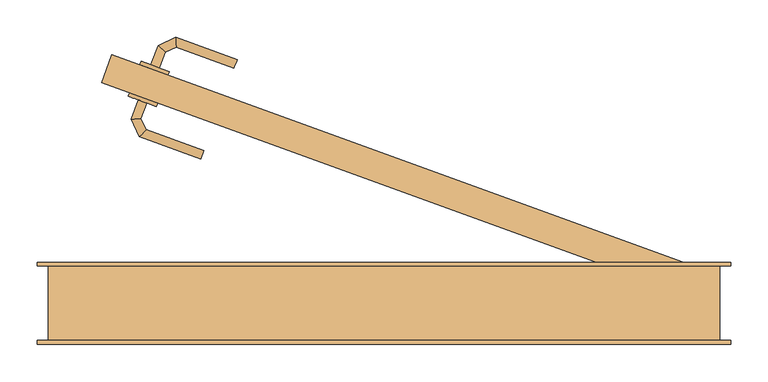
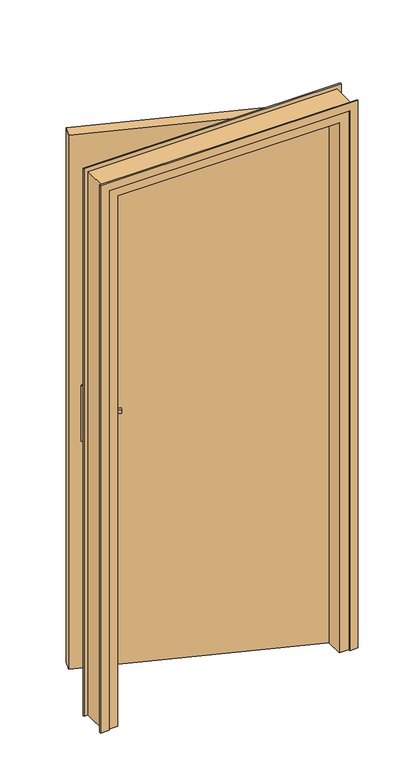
"""IFC4 building model written with IfcOpenShell, lengths in millimetres: door geometry, @_Int. Simple : @_PP (0.83m x 2.04m)."""

from ifc_helpers import new_model, si_unit, point, frame, frame_2d, origin, origin_with_axes, place, context, project, spatial, polyline, circle_curve, ellipse_curve, trimmed, segment, composite_curve, outline, extrude, faceted_brep, source, transform, mapped, element, save
from ifc_brep_helpers import plane_surface, cylinder_surface, advanced_brep


def door_510859a6(model_context):
    return source(origin(), model_context, "Body", "SolidModel", [
        extrude(outline(composite_curve([segment(trimmed(circle_curve(frame_2d((0.0, 40.0)), 40.0), [point((34.6410162, 60.0))], [point((34.6410162, 20.0))], False, "CARTESIAN"), True, "CONTINUOUS"), segment(polyline([(34.6410162, 20.0), (-175.3589838, 20.0)]), True, "CONTINUOUS"), segment(trimmed(circle_curve(frame_2d((-140.7179676, 40.0)), 40.0), [point((-175.3589838, 20.0))], [point((-175.3589838, 60.0))], False, "CARTESIAN"), True, "CONTINUOUS"), segment(polyline([(-175.3589838, 60.0), (34.6410162, 60.0)]), True, "CONTINUOUS")], self_intersect=False)), frame((-305.9756132, 299.6747046, 904.6410162), z_axis=(0.3420201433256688, 0.9396926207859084, 0.0), x_axis=(0.0, 0.0, -1.0)), (0.0, 0.0, 1.0), 5.0),
        extrude(outline(composite_curve([segment(trimmed(circle_curve(frame_2d((0.0, 40.0000001)), 40.0), [point((-34.6410162, 20.0))], [point((-34.6410162, 60.0))], False, "CARTESIAN"), True, "CONTINUOUS"), segment(polyline([(-34.6410162, 60.0), (175.3589838, 60.0)]), True, "CONTINUOUS"), segment(trimmed(circle_curve(frame_2d((140.7179676, 40.0000001)), 40.0), [point((175.3589838, 60.0))], [point((175.3589838, 20.0))], False, "CARTESIAN"), True, "CONTINUOUS"), segment(polyline([(175.3589838, 20.0), (-34.6410162, 20.0)]), True, "CONTINUOUS")], self_intersect=False)), frame((-321.3665196, 257.3885367, 1045.3589838), z_axis=(0.3420201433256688, 0.9396926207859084, 0.0), x_axis=(0.0, 0.0, -1.0)), (0.0, 0.0, 1.0), 5.0),
        advanced_brep(
        [(-347.491373, 320.1060943, 1007.0), (-347.491373, 320.1060943, 993.0), (-336.2150616, 316.0018526, 993.0), (-336.2150616, 316.0018526, 1007.0), (-328.457912, 337.3144458, 1007.0), (-338.0341909, 346.0894887, 1007.0), (-328.457912, 337.3144458, 993.0), (-338.0341909, 346.0894887, 993.0), (-313.9133269, 344.0966972, 1007.0), (-314.4798863, 357.0730413, 1007.0), (-313.9133269, 344.0966972, 993.0), (-314.4798863, 357.0730413, 993.0), (-232.1238807, 327.0979066, 1007.0), (-236.2281224, 315.8215952, 1007.0), (-236.2281224, 315.8215952, 993.0), (-232.1238807, 327.0979066, 993.0)],
        [
            (0, 1),
            (1, 2, circle_curve(frame((-341.8532173, 318.0539735, 1013.0457722), z_axis=(-0.3420201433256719, -0.9396926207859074, 0.0), x_axis=(0.9396926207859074, -0.3420201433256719, 0.0)), 20.9244589)),
            (2, 3),
            (3, 0, circle_curve(frame((-341.8532173, 318.0539735, 986.9542278), z_axis=(-0.3420201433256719, -0.9396926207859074, 0.0), x_axis=(0.9396926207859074, -0.3420201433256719, 0.0)), 20.9244589)),
            (3, 4),
            (4, 5, ellipse_curve(frame((-333.2460515, 341.7019672, 986.9542278), z_axis=(-0.6755902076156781, -0.7372773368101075, 0.0), x_axis=(0.7372773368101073, -0.6755902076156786, 0.0)), 22.6484711, 20.9244589)),
            (5, 0),
            (2, 6),
            (6, 4),
            (1, 7),
            (7, 6, ellipse_curve(frame((-333.2460515, 341.7019672, 1013.0457722), z_axis=(-0.6755902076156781, -0.7372773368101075, 0.0), x_axis=(0.7372773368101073, -0.6755902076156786, 0.0)), 22.6484711, 20.9244589)),
            (5, 7),
            (4, 8),
            (8, 9, ellipse_curve(frame((-314.1966066, 350.5848693, 986.9542278), z_axis=(-0.9990482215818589, -0.0436193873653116, 0.0), x_axis=(0.04361938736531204, -0.9990482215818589, 0.0)), 22.6484711, 20.9244589)),
            (9, 5),
            (6, 10),
            (10, 8),
            (7, 11),
            (11, 10, ellipse_curve(frame((-314.1966066, 350.5848693, 1013.0457722), z_axis=(-0.9990482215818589, -0.0436193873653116, 0.0), x_axis=(0.04361938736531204, -0.9990482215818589, 0.0)), 22.6484711, 20.9244589)),
            (9, 11),
            (12, 13, circle_curve(frame((-234.1760015, 321.4597509, 986.9542278), z_axis=(0.9396926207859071, -0.34202014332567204, 0.0), x_axis=(-0.3420201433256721, -0.9396926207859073, 0.0)), 20.9244589)),
            (13, 14),
            (14, 15, circle_curve(frame((-234.1760015, 321.4597509, 1013.0457722), z_axis=(0.9396926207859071, -0.34202014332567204, 0.0), x_axis=(-0.3420201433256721, -0.9396926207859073, 0.0)), 20.9244589)),
            (15, 12),
            (8, 13),
            (12, 9),
            (10, 14),
            (11, 15),
        ],
        [
            plane_surface(frame((-350.5167552, 321.2072434, 1000.0), z_axis=(-0.3420201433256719, -0.9396926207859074, 0.0), x_axis=(0.0, 0.0, -1.0))),
            cylinder_surface(frame((-341.8532173, 318.0539735, 986.9542278), z_axis=(-0.3420201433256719, -0.9396926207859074, 0.0), x_axis=(0.9396926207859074, -0.3420201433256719, 0.0)), 20.9244589),
            plane_surface(frame((-336.2150616, 316.0018526, 1007.0), z_axis=(0.9396926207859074, -0.3420201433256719, 0.0), x_axis=(0.3420201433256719, 0.9396926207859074, 0.0))),
            cylinder_surface(frame((-341.8532173, 318.0539735, 1013.0457722), z_axis=(-0.3420201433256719, -0.9396926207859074, 0.0), x_axis=(0.9396926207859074, -0.3420201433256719, 0.0)), 20.9244589),
            plane_surface(frame((-347.491373, 320.1060943, 993.0), z_axis=(-0.9396926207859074, 0.3420201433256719, 0.0), x_axis=(0.3420201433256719, 0.9396926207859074, 0.0))),
            cylinder_surface(frame((-333.2460515, 341.7019672, 986.9542278), z_axis=(-0.9063077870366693, -0.42261826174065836, 0.0), x_axis=(0.42261826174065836, -0.9063077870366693, 0.0)), 20.9244589),
            plane_surface(frame((-328.457912, 337.3144458, 1007.0), z_axis=(0.42261826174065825, -0.9063077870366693, 0.0), x_axis=(0.9063077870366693, 0.42261826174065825, 0.0))),
            cylinder_surface(frame((-333.2460515, 341.7019672, 1013.0457722), z_axis=(-0.9063077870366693, -0.42261826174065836, 0.0), x_axis=(0.42261826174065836, -0.9063077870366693, 0.0)), 20.9244589),
            plane_surface(frame((-338.0341909, 346.0894887, 993.0), z_axis=(-0.42261826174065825, 0.9063077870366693, 0.0), x_axis=(0.9063077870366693, 0.42261826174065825, 0.0))),
            plane_surface(frame((-234.1760015, 321.4597509, 990.7804555), z_axis=(0.9396926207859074, -0.3420201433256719, 0.0), x_axis=(-0.3420201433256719, -0.9396926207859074, 0.0))),
            cylinder_surface(frame((-314.1966066, 350.5848693, 986.9542278), z_axis=(-0.9396926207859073, 0.3420201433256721, 0.0), x_axis=(-0.3420201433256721, -0.9396926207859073, 0.0)), 20.9244589),
            plane_surface(frame((-313.9133269, 344.0966972, 1007.0), z_axis=(-0.3420201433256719, -0.9396926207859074, 0.0), x_axis=(0.9396926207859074, -0.3420201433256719, 0.0))),
            cylinder_surface(frame((-314.1966066, 350.5848693, 1013.0457722), z_axis=(-0.9396926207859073, 0.3420201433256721, 0.0), x_axis=(-0.3420201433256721, -0.9396926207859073, 0.0)), 20.9244589),
            plane_surface(frame((-314.4798863, 357.0730413, 993.0), z_axis=(0.3420201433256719, 0.9396926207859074, 0.0), x_axis=(0.9396926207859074, -0.3420201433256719, 0.0))),
        ],
        [
            (0, [[1, 2, 3, 4]]),
            (1, [[5, 6, 7, -4]]),
            (2, [[8, 9, -5, -3]]),
            (3, [[10, 11, -8, -2]]),
            (4, [[-7, 12, -10, -1]]),
            (5, [[13, 14, 15, -6]]),
            (6, [[16, 17, -13, -9]]),
            (7, [[18, 19, -16, -11]]),
            (8, [[-15, 20, -18, -12]]),
            (9, [[21, 22, 23, 24]]),
            (10, [[25, -21, 26, -14]]),
            (11, [[27, -22, -25, -17]]),
            (12, [[28, -23, -27, -19]]),
            (13, [[-26, -24, -28, -20]]),
        ],
    ),
        advanced_brep(
        [(-353.3160687, 269.0172216, 993.0), (-364.5923802, 273.1214633, 993.0), (-364.5923802, 273.1214633, 1007.0), (-353.3160687, 269.0172216, 1007.0), (-361.0064616, 247.8880408, 1007.0), (-361.0064616, 247.8880408, 993.0), (-373.9828056, 247.3214814, 1007.0), (-373.9828056, 247.3214814, 993.0), (-354.142025, 233.1672091, 1007.0), (-354.142025, 233.1672091, 993.0), (-362.9170679, 223.5909302, 1007.0), (-362.9170679, 223.5909302, 993.0), (-276.5605303, 204.9298543, 993.0), (-276.5605303, 204.9298543, 1007.0), (-280.664772, 193.6535428, 1007.0), (-280.664772, 193.6535428, 993.0)],
        [
            (0, 1, circle_curve(frame((-358.9542245, 271.0693424, 1013.0457722), z_axis=(0.3420201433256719, 0.9396926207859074, 0.0), x_axis=(-0.9396926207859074, 0.3420201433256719, 0.0)), 20.9244589)),
            (1, 2),
            (2, 3, circle_curve(frame((-358.9542245, 271.0693424, 986.9542278), z_axis=(0.3420201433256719, 0.9396926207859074, 0.0), x_axis=(-0.9396926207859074, 0.3420201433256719, 0.0)), 20.9244589)),
            (3, 0),
            (3, 4),
            (4, 5),
            (5, 0),
            (2, 6),
            (6, 4, ellipse_curve(frame((-367.4946336, 247.6047611, 986.9542278), z_axis=(-0.043619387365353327, 0.9990482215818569, 0.0), x_axis=(0.9990482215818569, 0.04361938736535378, 0.0)), 22.6484711, 20.9244589)),
            (1, 7),
            (7, 6),
            (5, 7, ellipse_curve(frame((-367.4946336, 247.6047611, 1013.0457722), z_axis=(-0.043619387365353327, 0.9990482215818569, 0.0), x_axis=(0.9990482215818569, 0.04361938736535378, 0.0)), 22.6484711, 20.9244589)),
            (4, 8),
            (8, 9),
            (9, 5),
            (6, 10),
            (10, 8, ellipse_curve(frame((-358.5295465, 228.3790696, 986.9542278), z_axis=(-0.737277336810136, 0.6755902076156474, 0.0), x_axis=(0.6755902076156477, 0.7372773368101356, 0.0)), 22.6484711, 20.9244589)),
            (7, 11),
            (11, 10),
            (9, 11, ellipse_curve(frame((-358.5295465, 228.3790696, 1013.0457722), z_axis=(-0.737277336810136, 0.6755902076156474, 0.0), x_axis=(0.6755902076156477, 0.7372773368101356, 0.0)), 22.6484711, 20.9244589)),
            (12, 13),
            (13, 14, circle_curve(frame((-278.6126511, 199.2916985, 986.9542278), z_axis=(0.9396926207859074, -0.3420201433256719, 0.0), x_axis=(-0.3420201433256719, -0.9396926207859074, 0.0)), 20.9244589)),
            (14, 15),
            (15, 12, circle_curve(frame((-278.6126511, 199.2916985, 1013.0457722), z_axis=(0.9396926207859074, -0.3420201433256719, 0.0), x_axis=(-0.3420201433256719, -0.9396926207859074, 0.0)), 20.9244589)),
            (8, 13),
            (12, 9),
            (10, 14),
            (11, 15),
        ],
        [
            plane_surface(frame((-367.6177623, 274.2226123, 1000.0), z_axis=(0.3420201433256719, 0.9396926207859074, 0.0), x_axis=(0.0, 0.0, 1.0))),
            plane_surface(frame((-353.3160687, 269.0172216, 993.0), z_axis=(0.9396926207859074, -0.3420201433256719, 0.0), x_axis=(-0.3420201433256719, -0.9396926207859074, 0.0))),
            cylinder_surface(frame((-358.9542245, 271.0693424, 986.9542278), z_axis=(0.3420201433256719, 0.9396926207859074, 0.0), x_axis=(-0.9396926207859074, 0.3420201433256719, 0.0)), 20.9244589),
            plane_surface(frame((-364.5923802, 273.1214633, 1007.0), z_axis=(-0.9396926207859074, 0.3420201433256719, 0.0), x_axis=(-0.3420201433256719, -0.9396926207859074, 0.0))),
            cylinder_surface(frame((-358.9542245, 271.0693424, 1013.0457722), z_axis=(0.3420201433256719, 0.9396926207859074, 0.0), x_axis=(-0.9396926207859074, 0.3420201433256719, 0.0)), 20.9244589),
            plane_surface(frame((-361.0064616, 247.8880408, 993.0), z_axis=(0.906307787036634, 0.42261826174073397, 0.0), x_axis=(0.42261826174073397, -0.906307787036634, 0.0))),
            cylinder_surface(frame((-367.4946336, 247.6047611, 986.9542278), z_axis=(-0.422618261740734, 0.9063077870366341, 0.0), x_axis=(-0.9063077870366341, -0.422618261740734, 0.0)), 20.9244589),
            plane_surface(frame((-373.9828056, 247.3214814, 1007.0), z_axis=(-0.906307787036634, -0.4226182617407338, 0.0), x_axis=(0.4226182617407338, -0.906307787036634, 0.0))),
            cylinder_surface(frame((-367.4946336, 247.6047611, 1013.0457722), z_axis=(-0.422618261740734, 0.9063077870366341, 0.0), x_axis=(-0.9063077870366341, -0.422618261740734, 0.0)), 20.9244589),
            plane_surface(frame((-278.6126511, 199.2916985, 990.7804555), z_axis=(0.9396926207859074, -0.3420201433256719, 0.0), x_axis=(-0.3420201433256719, -0.9396926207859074, 0.0))),
            plane_surface(frame((-354.142025, 233.1672091, 993.0), z_axis=(0.3420201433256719, 0.9396926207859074, 0.0), x_axis=(0.9396926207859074, -0.3420201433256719, 0.0))),
            cylinder_surface(frame((-358.5295465, 228.3790696, 986.9542278), z_axis=(-0.9396926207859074, 0.3420201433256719, 0.0), x_axis=(-0.3420201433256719, -0.9396926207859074, 0.0)), 20.9244589),
            plane_surface(frame((-362.9170679, 223.5909302, 1007.0), z_axis=(-0.3420201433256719, -0.9396926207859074, 0.0), x_axis=(0.9396926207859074, -0.3420201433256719, 0.0))),
            cylinder_surface(frame((-358.5295465, 228.3790696, 1013.0457722), z_axis=(-0.9396926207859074, 0.3420201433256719, 0.0), x_axis=(-0.3420201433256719, -0.9396926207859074, 0.0)), 20.9244589),
        ],
        [
            (0, [[1, 2, 3, 4]]),
            (1, [[5, 6, 7, -4]]),
            (2, [[8, 9, -5, -3]]),
            (3, [[10, 11, -8, -2]]),
            (4, [[-7, 12, -10, -1]]),
            (5, [[13, 14, 15, -6]]),
            (6, [[16, 17, -13, -9]]),
            (7, [[18, 19, -16, -11]]),
            (8, [[-15, 20, -18, -12]]),
            (9, [[21, 22, 23, 24]]),
            (10, [[25, -21, 26, -14]]),
            (11, [[27, -22, -25, -17]]),
            (12, [[28, -23, -27, -19]]),
            (13, [[-26, -24, -28, -20]]),
        ],
    ),
        extrude(outline(polyline([(-413.625681, 296.2890141), (-399.9448753, 333.876719), (380.0, 50.0), (366.3191943, 12.4122952), (-413.625681, 296.2890141)])), origin_with_axes(), (0.0, 0.0, 1.0), 2040.0),
        faceted_brep([(-485.0, 50.0, 0.0), (-450.0, 50.0, 0.0), (-450.0, 10.0, 0.0), (-435.0, 10.0, 0.0), (-435.0, -50.0, 0.0), (-485.0, -50.0, 0.0), (-485.0, -50.0, 2075.0), (-485.0, 50.0, 2075.0), (-435.0, -50.0, 2025.0), (365.0, -50.0, 2025.0), (365.0, -50.0, 0.0), (415.0, -50.0, 0.0), (415.0, -50.0, 2075.0), (-435.0, 10.0, 2025.0), (-450.0, 10.0, 2040.0), (380.0, 10.0, 2040.0), (380.0, 10.0, 0.0), (365.0, 10.0, 0.0), (365.0, 10.0, 2025.0), (-450.0, 50.0, 2040.0), (415.0, 50.0, 2075.0), (415.0, 50.0, 0.0), (380.0, 50.0, 0.0), (380.0, 50.0, 2040.0)], [[[0, 1, 2, 3, 4, 5]], [[5, 6, 7, 0]], [[4, 8, 9, 10, 11, 12, 6, 5]], [[3, 13, 8, 4]], [[2, 14, 15, 16, 17, 18, 13, 3]], [[1, 19, 14, 2]], [[0, 7, 20, 21, 22, 23, 19, 1]], [[12, 11, 21, 20]], [[21, 11, 10, 17, 16, 22]], [[18, 17, 10, 9]], [[23, 22, 16, 15]], [[6, 12, 20, 7]], [[13, 18, 9, 8]], [[19, 23, 15, 14]]]),
        extrude(outline(polyline([(0.0, -470.0), (2060.0, -470.0), (2060.0, 400.0), (0.0, 400.0), (0.0, 430.0), (2090.0, 430.0), (2090.0, -500.0), (0.0, -500.0), (0.0, -470.0)])), frame((0.0, 50.0, 0.0), z_axis=(0.0, 1.0, 0.0), x_axis=(0.0, 0.0, 1.0)), (0.0, 0.0, 1.0), 5.0),
        extrude(outline(polyline([(0.0, -470.0), (2060.0, -470.0), (2060.0, 400.0), (0.0, 400.0), (0.0, 430.0), (2090.0, 430.0), (2090.0, -500.0), (0.0, -500.0), (0.0, -470.0)])), frame((0.0, -55.0, 0.0), z_axis=(0.0, 1.0, 0.0), x_axis=(0.0, 0.0, 1.0)), (0.0, 0.0, 1.0), 5.0),
    ])


if __name__ == "__main__":
    model = new_model("IFC4")
    model_context = context("Model", 3, world=origin())
    ifc_project = project(units=[si_unit("LENGTHUNIT", "METRE", prefix="MILLI")], contexts=[model_context])
    site = spatial("IfcSite", under=ifc_project)
    building = spatial("IfcBuilding", under=site)
    placement = place(None, origin())
    door_shape = door_510859a6(model_context)
    element("IfcDoor", 1, ObjectType="@_Int. Simple : @_PP (0.83m x 2.04m)", at=placement, inside=building, context=model_context, shape_type="MappedRepresentation", body=[
        mapped(door_shape, transform((0.0, 0.0, 0.0), x_axis=(1.0, 0.0, 0.0), y_axis=(0.0, 1.0, 0.0), z_axis=(0.0, 0.0, 1.0))),
    ])
    save(model, "model.ifc")
